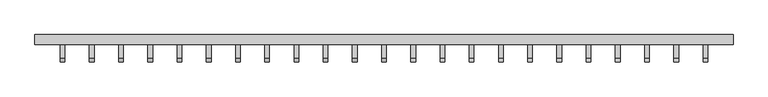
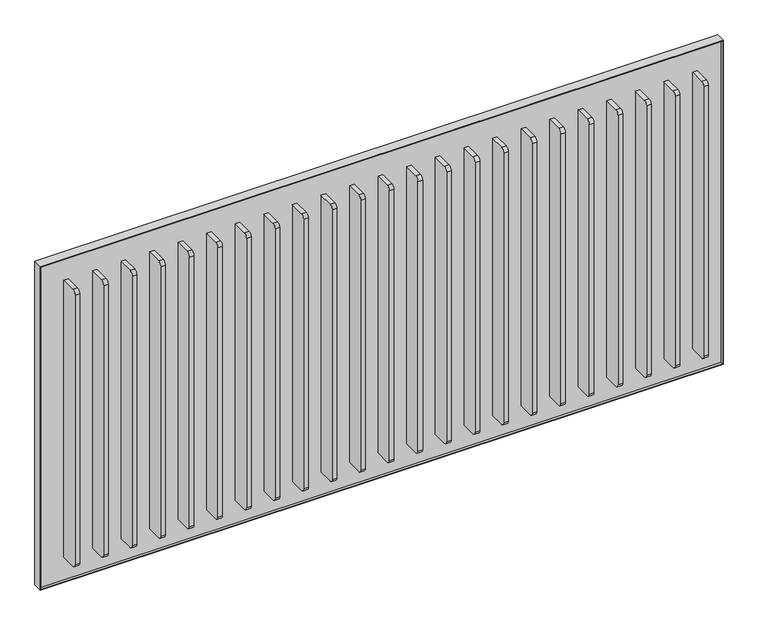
"""IFC4 building model written with IfcOpenShell, lengths in millimetres: proxy geometry, Frame_Cascade 4.3dm."""

from ifc_helpers import new_model, si_unit, point, frame, frame_2d, origin, place, context, project, spatial, polyline, circle_curve, trimmed, segment, composite_curve, outline, extrude, source, transform, mapped, element, save


def generic_models_1e1d5cd4(model_context):
    return source(origin(), model_context, "Body", "SweptSolid", [
        extrude(outline(composite_curve([segment(trimmed(circle_curve(frame_2d((72.7568681, 617.8576084)), 10.0), [point((72.7568681, 607.8576084))], [point((62.7568681, 617.8576084))], False, "CARTESIAN"), True, "CONTINUOUS"), segment(polyline([(62.7568681, 617.8576084), (62.7568681, 1370.8576084)]), True, "CONTINUOUS"), segment(trimmed(circle_curve(frame_2d((72.7568681, 1370.8576084)), 10.0), [point((62.7568681, 1370.8576084))], [point((72.7568681, 1380.8576084))], False, "CARTESIAN"), True, "CONTINUOUS"), segment(polyline([(72.7568681, 1380.8576084), (114.2568681, 1380.8576084), (114.2568681, 607.8576084), (72.7568681, 607.8576084)]), True, "CONTINUOUS")], self_intersect=False)), frame((6603.5913293, 0.0, 0.0), z_axis=(1.0, 0.0, 0.0), x_axis=(0.0, 1.0, 0.0)), (0.0, 0.0, 1.0), 12.0),
        extrude(outline(composite_curve([segment(trimmed(circle_curve(frame_2d((72.7568681, 617.8576084)), 10.0), [point((72.7568681, 607.8576084))], [point((62.7568681, 617.8576084))], False, "CARTESIAN"), True, "CONTINUOUS"), segment(polyline([(62.7568681, 617.8576084), (62.7568681, 1370.8576084)]), True, "CONTINUOUS"), segment(trimmed(circle_curve(frame_2d((72.7568681, 1370.8576084)), 10.0), [point((62.7568681, 1370.8576084))], [point((72.7568681, 1380.8576084))], False, "CARTESIAN"), True, "CONTINUOUS"), segment(polyline([(72.7568681, 1380.8576084), (114.2568681, 1380.8576084), (114.2568681, 607.8576084), (72.7568681, 607.8576084)]), True, "CONTINUOUS")], self_intersect=False)), frame((6528.0913293, 0.0, 0.0), z_axis=(1.0, 0.0, 0.0), x_axis=(0.0, 1.0, 0.0)), (0.0, 0.0, 1.0), 12.0),
        extrude(outline(composite_curve([segment(trimmed(circle_curve(frame_2d((72.7568681, 617.8576084)), 10.0), [point((72.7568681, 607.8576084))], [point((62.7568681, 617.8576084))], False, "CARTESIAN"), True, "CONTINUOUS"), segment(polyline([(62.7568681, 617.8576084), (62.7568681, 1370.8576084)]), True, "CONTINUOUS"), segment(trimmed(circle_curve(frame_2d((72.7568681, 1370.8576084)), 10.0), [point((62.7568681, 1370.8576084))], [point((72.7568681, 1380.8576084))], False, "CARTESIAN"), True, "CONTINUOUS"), segment(polyline([(72.7568681, 1380.8576084), (114.2568681, 1380.8576084), (114.2568681, 607.8576084), (72.7568681, 607.8576084)]), True, "CONTINUOUS")], self_intersect=False)), frame((6075.0913293, 0.0, 0.0), z_axis=(1.0, 0.0, 0.0), x_axis=(0.0, 1.0, 0.0)), (0.0, 0.0, 1.0), 12.0),
        extrude(outline(composite_curve([segment(trimmed(circle_curve(frame_2d((72.7568681, 617.8576084)), 10.0), [point((72.7568681, 607.8576084))], [point((62.7568681, 617.8576084))], False, "CARTESIAN"), True, "CONTINUOUS"), segment(polyline([(62.7568681, 617.8576084), (62.7568681, 1370.8576084)]), True, "CONTINUOUS"), segment(trimmed(circle_curve(frame_2d((72.7568681, 1370.8576084)), 10.0), [point((62.7568681, 1370.8576084))], [point((72.7568681, 1380.8576084))], False, "CARTESIAN"), True, "CONTINUOUS"), segment(polyline([(72.7568681, 1380.8576084), (114.2568681, 1380.8576084), (114.2568681, 607.8576084), (72.7568681, 607.8576084)]), True, "CONTINUOUS")], self_intersect=False)), frame((5999.5913293, 0.0, 0.0), z_axis=(1.0, 0.0, 0.0), x_axis=(0.0, 1.0, 0.0)), (0.0, 0.0, 1.0), 12.0),
        extrude(outline(composite_curve([segment(trimmed(circle_curve(frame_2d((72.7568681, 617.8576084)), 10.0), [point((72.7568681, 607.8576084))], [point((62.7568681, 617.8576084))], False, "CARTESIAN"), True, "CONTINUOUS"), segment(polyline([(62.7568681, 617.8576084), (62.7568681, 1370.8576084)]), True, "CONTINUOUS"), segment(trimmed(circle_curve(frame_2d((72.7568681, 1370.8576084)), 10.0), [point((62.7568681, 1370.8576084))], [point((72.7568681, 1380.8576084))], False, "CARTESIAN"), True, "CONTINUOUS"), segment(polyline([(72.7568681, 1380.8576084), (114.2568681, 1380.8576084), (114.2568681, 607.8576084), (72.7568681, 607.8576084)]), True, "CONTINUOUS")], self_intersect=False)), frame((6150.5913293, 0.0, 0.0), z_axis=(1.0, 0.0, 0.0), x_axis=(0.0, 1.0, 0.0)), (0.0, 0.0, 1.0), 12.0),
        extrude(outline(composite_curve([segment(trimmed(circle_curve(frame_2d((72.7568681, 617.8576084)), 10.0), [point((72.7568681, 607.8576084))], [point((62.7568681, 617.8576084))], False, "CARTESIAN"), True, "CONTINUOUS"), segment(polyline([(62.7568681, 617.8576084), (62.7568681, 1370.8576084)]), True, "CONTINUOUS"), segment(trimmed(circle_curve(frame_2d((72.7568681, 1370.8576084)), 10.0), [point((62.7568681, 1370.8576084))], [point((72.7568681, 1380.8576084))], False, "CARTESIAN"), True, "CONTINUOUS"), segment(polyline([(72.7568681, 1380.8576084), (114.2568681, 1380.8576084), (114.2568681, 607.8576084), (72.7568681, 607.8576084)]), True, "CONTINUOUS")], self_intersect=False)), frame((6226.0913293, 0.0, 0.0), z_axis=(1.0, 0.0, 0.0), x_axis=(0.0, 1.0, 0.0)), (0.0, 0.0, 1.0), 12.0),
        extrude(outline(composite_curve([segment(trimmed(circle_curve(frame_2d((72.7568681, 617.8576084)), 10.0), [point((72.7568681, 607.8576084))], [point((62.7568681, 617.8576084))], False, "CARTESIAN"), True, "CONTINUOUS"), segment(polyline([(62.7568681, 617.8576084), (62.7568681, 1370.8576084)]), True, "CONTINUOUS"), segment(trimmed(circle_curve(frame_2d((72.7568681, 1370.8576084)), 10.0), [point((62.7568681, 1370.8576084))], [point((72.7568681, 1380.8576084))], False, "CARTESIAN"), True, "CONTINUOUS"), segment(polyline([(72.7568681, 1380.8576084), (114.2568681, 1380.8576084), (114.2568681, 607.8576084), (72.7568681, 607.8576084)]), True, "CONTINUOUS")], self_intersect=False)), frame((6301.5913293, 0.0, 0.0), z_axis=(1.0, 0.0, 0.0), x_axis=(0.0, 1.0, 0.0)), (0.0, 0.0, 1.0), 12.0),
        extrude(outline(composite_curve([segment(trimmed(circle_curve(frame_2d((72.7568681, 617.8576084)), 10.0), [point((72.7568681, 607.8576084))], [point((62.7568681, 617.8576084))], False, "CARTESIAN"), True, "CONTINUOUS"), segment(polyline([(62.7568681, 617.8576084), (62.7568681, 1370.8576084)]), True, "CONTINUOUS"), segment(trimmed(circle_curve(frame_2d((72.7568681, 1370.8576084)), 10.0), [point((62.7568681, 1370.8576084))], [point((72.7568681, 1380.8576084))], False, "CARTESIAN"), True, "CONTINUOUS"), segment(polyline([(72.7568681, 1380.8576084), (114.2568681, 1380.8576084), (114.2568681, 607.8576084), (72.7568681, 607.8576084)]), True, "CONTINUOUS")], self_intersect=False)), frame((6377.0913293, 0.0, 0.0), z_axis=(1.0, 0.0, 0.0), x_axis=(0.0, 1.0, 0.0)), (0.0, 0.0, 1.0), 12.0),
        extrude(outline(composite_curve([segment(trimmed(circle_curve(frame_2d((72.7568681, 617.8576084)), 10.0), [point((72.7568681, 607.8576084))], [point((62.7568681, 617.8576084))], False, "CARTESIAN"), True, "CONTINUOUS"), segment(polyline([(62.7568681, 617.8576084), (62.7568681, 1370.8576084)]), True, "CONTINUOUS"), segment(trimmed(circle_curve(frame_2d((72.7568681, 1370.8576084)), 10.0), [point((62.7568681, 1370.8576084))], [point((72.7568681, 1380.8576084))], False, "CARTESIAN"), True, "CONTINUOUS"), segment(polyline([(72.7568681, 1380.8576084), (114.2568681, 1380.8576084), (114.2568681, 607.8576084), (72.7568681, 607.8576084)]), True, "CONTINUOUS")], self_intersect=False)), frame((6452.5913293, 0.0, 0.0), z_axis=(1.0, 0.0, 0.0), x_axis=(0.0, 1.0, 0.0)), (0.0, 0.0, 1.0), 12.0),
        extrude(outline(composite_curve([segment(polyline([(62.7568681, 617.8576084), (62.7568681, 1370.8576084)]), True, "CONTINUOUS"), segment(trimmed(circle_curve(frame_2d((72.7568681, 1370.8576084)), 10.0), [point((62.7568681, 1370.8576084))], [point((72.7568681, 1380.8576084))], False, "CARTESIAN"), True, "CONTINUOUS"), segment(polyline([(72.7568681, 1380.8576084), (114.2568681, 1380.8576084), (114.2568681, 607.8576084), (72.7568681, 607.8576084)]), True, "CONTINUOUS"), segment(trimmed(circle_curve(frame_2d((72.7568681, 617.8576084)), 10.0), [point((72.7568681, 607.8576084))], [point((62.7568681, 617.8576084))], False, "CARTESIAN"), True, "CONTINUOUS")], self_intersect=False)), frame((6905.5913293, 0.0, 0.0), z_axis=(1.0, 0.0, 0.0), x_axis=(0.0, 1.0, 0.0)), (0.0, 0.0, 1.0), 12.0),
        extrude(outline(composite_curve([segment(trimmed(circle_curve(frame_2d((72.7568681, 617.8576084)), 10.0), [point((72.7568681, 607.8576084))], [point((62.7568681, 617.8576084))], False, "CARTESIAN"), True, "CONTINUOUS"), segment(polyline([(62.7568681, 617.8576084), (62.7568681, 1370.8576084)]), True, "CONTINUOUS"), segment(trimmed(circle_curve(frame_2d((72.7568681, 1370.8576084)), 10.0), [point((62.7568681, 1370.8576084))], [point((72.7568681, 1380.8576084))], False, "CARTESIAN"), True, "CONTINUOUS"), segment(polyline([(72.7568681, 1380.8576084), (114.2568681, 1380.8576084), (114.2568681, 607.8576084), (72.7568681, 607.8576084)]), True, "CONTINUOUS")], self_intersect=False)), frame((6754.5913293, 0.0, 0.0), z_axis=(1.0, 0.0, 0.0), x_axis=(0.0, 1.0, 0.0)), (0.0, 0.0, 1.0), 12.0),
        extrude(outline(composite_curve([segment(trimmed(circle_curve(frame_2d((72.7568681, 617.8576084)), 10.0), [point((72.7568681, 607.8576084))], [point((62.7568681, 617.8576084))], False, "CARTESIAN"), True, "CONTINUOUS"), segment(polyline([(62.7568681, 617.8576084), (62.7568681, 1370.8576084)]), True, "CONTINUOUS"), segment(trimmed(circle_curve(frame_2d((72.7568681, 1370.8576084)), 10.0), [point((62.7568681, 1370.8576084))], [point((72.7568681, 1380.8576084))], False, "CARTESIAN"), True, "CONTINUOUS"), segment(polyline([(72.7568681, 1380.8576084), (114.2568681, 1380.8576084), (114.2568681, 607.8576084), (72.7568681, 607.8576084)]), True, "CONTINUOUS")], self_intersect=False)), frame((6679.0913293, 0.0, 0.0), z_axis=(1.0, 0.0, 0.0), x_axis=(0.0, 1.0, 0.0)), (0.0, 0.0, 1.0), 12.0),
        extrude(outline(composite_curve([segment(polyline([(62.7568681, 617.8576084), (62.7568681, 1370.8576084)]), True, "CONTINUOUS"), segment(trimmed(circle_curve(frame_2d((72.7568681, 1370.8576084)), 10.0), [point((62.7568681, 1370.8576084))], [point((72.7568681, 1380.8576084))], False, "CARTESIAN"), True, "CONTINUOUS"), segment(polyline([(72.7568681, 1380.8576084), (114.2568681, 1380.8576084), (114.2568681, 607.8576084), (72.7568681, 607.8576084)]), True, "CONTINUOUS"), segment(trimmed(circle_curve(frame_2d((72.7568681, 617.8576084)), 10.0), [point((72.7568681, 607.8576084))], [point((62.7568681, 617.8576084))], False, "CARTESIAN"), True, "CONTINUOUS")], self_intersect=False)), frame((7056.5913293, 0.0, 0.0), z_axis=(1.0, 0.0, 0.0), x_axis=(0.0, 1.0, 0.0)), (0.0, 0.0, 1.0), 12.0),
        extrude(outline(composite_curve([segment(trimmed(circle_curve(frame_2d((72.7568681, 617.8576084)), 10.0), [point((72.7568681, 607.8576084))], [point((62.7568681, 617.8576084))], False, "CARTESIAN"), True, "CONTINUOUS"), segment(polyline([(62.7568681, 617.8576084), (62.7568681, 1370.8576084)]), True, "CONTINUOUS"), segment(trimmed(circle_curve(frame_2d((72.7568681, 1370.8576084)), 10.0), [point((62.7568681, 1370.8576084))], [point((72.7568681, 1380.8576084))], False, "CARTESIAN"), True, "CONTINUOUS"), segment(polyline([(72.7568681, 1380.8576084), (114.2568681, 1380.8576084), (114.2568681, 607.8576084), (72.7568681, 607.8576084)]), True, "CONTINUOUS")], self_intersect=False)), frame((6830.0913293, 0.0, 0.0), z_axis=(1.0, 0.0, 0.0), x_axis=(0.0, 1.0, 0.0)), (0.0, 0.0, 1.0), 12.0),
        extrude(outline(composite_curve([segment(polyline([(62.7568681, 617.8576084), (62.7568681, 1370.8576084)]), True, "CONTINUOUS"), segment(trimmed(circle_curve(frame_2d((72.7568681, 1370.8576084)), 10.0), [point((62.7568681, 1370.8576084))], [point((72.7568681, 1380.8576084))], False, "CARTESIAN"), True, "CONTINUOUS"), segment(polyline([(72.7568681, 1380.8576084), (114.2568681, 1380.8576084), (114.2568681, 607.8576084), (72.7568681, 607.8576084)]), True, "CONTINUOUS"), segment(trimmed(circle_curve(frame_2d((72.7568681, 617.8576084)), 10.0), [point((72.7568681, 607.8576084))], [point((62.7568681, 617.8576084))], False, "CARTESIAN"), True, "CONTINUOUS")], self_intersect=False)), frame((6981.0913293, 0.0, 0.0), z_axis=(1.0, 0.0, 0.0), x_axis=(0.0, 1.0, 0.0)), (0.0, 0.0, 1.0), 12.0),
        extrude(outline(composite_curve([segment(polyline([(62.7568681, 617.8576084), (62.7568681, 1370.8576084)]), True, "CONTINUOUS"), segment(trimmed(circle_curve(frame_2d((72.7568681, 1370.8576084)), 10.0), [point((62.7568681, 1370.8576084))], [point((72.7568681, 1380.8576084))], False, "CARTESIAN"), True, "CONTINUOUS"), segment(polyline([(72.7568681, 1380.8576084), (114.2568681, 1380.8576084), (114.2568681, 607.8576084), (72.7568681, 607.8576084)]), True, "CONTINUOUS"), segment(trimmed(circle_curve(frame_2d((72.7568681, 617.8576084)), 10.0), [point((72.7568681, 607.8576084))], [point((62.7568681, 617.8576084))], False, "CARTESIAN"), True, "CONTINUOUS")], self_intersect=False)), frame((7132.0913293, 0.0, 0.0), z_axis=(1.0, 0.0, 0.0), x_axis=(0.0, 1.0, 0.0)), (0.0, 0.0, 1.0), 12.0),
        extrude(outline(composite_curve([segment(polyline([(62.7568681, 617.8576084), (62.7568681, 1370.8576084)]), True, "CONTINUOUS"), segment(trimmed(circle_curve(frame_2d((72.7568681, 1370.8576084)), 10.0), [point((62.7568681, 1370.8576084))], [point((72.7568681, 1380.8576084))], False, "CARTESIAN"), True, "CONTINUOUS"), segment(polyline([(72.7568681, 1380.8576084), (114.2568681, 1380.8576084), (114.2568681, 607.8576084), (72.7568681, 607.8576084)]), True, "CONTINUOUS"), segment(trimmed(circle_curve(frame_2d((72.7568681, 617.8576084)), 10.0), [point((72.7568681, 607.8576084))], [point((62.7568681, 617.8576084))], False, "CARTESIAN"), True, "CONTINUOUS")], self_intersect=False)), frame((7207.5913293, 0.0, 0.0), z_axis=(1.0, 0.0, 0.0), x_axis=(0.0, 1.0, 0.0)), (0.0, 0.0, 1.0), 12.0),
        extrude(outline(composite_curve([segment(polyline([(62.7568681, 617.8576084), (62.7568681, 1370.8576084)]), True, "CONTINUOUS"), segment(trimmed(circle_curve(frame_2d((72.7568681, 1370.8576084)), 10.0), [point((62.7568681, 1370.8576084))], [point((72.7568681, 1380.8576084))], False, "CARTESIAN"), True, "CONTINUOUS"), segment(polyline([(72.7568681, 1380.8576084), (114.2568681, 1380.8576084), (114.2568681, 607.8576084), (72.7568681, 607.8576084)]), True, "CONTINUOUS"), segment(trimmed(circle_curve(frame_2d((72.7568681, 617.8576084)), 10.0), [point((72.7568681, 607.8576084))], [point((62.7568681, 617.8576084))], False, "CARTESIAN"), True, "CONTINUOUS")], self_intersect=False)), frame((7358.5913293, 0.0, 0.0), z_axis=(1.0, 0.0, 0.0), x_axis=(0.0, 1.0, 0.0)), (0.0, 0.0, 1.0), 12.0),
        extrude(outline(composite_curve([segment(polyline([(62.7568681, 617.8576084), (62.7568681, 1370.8576084)]), True, "CONTINUOUS"), segment(trimmed(circle_curve(frame_2d((72.7568681, 1370.8576084)), 10.0), [point((62.7568681, 1370.8576084))], [point((72.7568681, 1380.8576084))], False, "CARTESIAN"), True, "CONTINUOUS"), segment(polyline([(72.7568681, 1380.8576084), (114.2568681, 1380.8576084), (114.2568681, 607.8576084), (72.7568681, 607.8576084)]), True, "CONTINUOUS"), segment(trimmed(circle_curve(frame_2d((72.7568681, 617.8576084)), 10.0), [point((72.7568681, 607.8576084))], [point((62.7568681, 617.8576084))], False, "CARTESIAN"), True, "CONTINUOUS")], self_intersect=False)), frame((7283.0913293, 0.0, 0.0), z_axis=(1.0, 0.0, 0.0), x_axis=(0.0, 1.0, 0.0)), (0.0, 0.0, 1.0), 12.0),
        extrude(outline(composite_curve([segment(polyline([(62.7568681, 617.8576084), (62.7568681, 1370.8576084)]), True, "CONTINUOUS"), segment(trimmed(circle_curve(frame_2d((72.7568681, 1370.8576084)), 10.0), [point((62.7568681, 1370.8576084))], [point((72.7568681, 1380.8576084))], False, "CARTESIAN"), True, "CONTINUOUS"), segment(polyline([(72.7568681, 1380.8576084), (114.2568681, 1380.8576084), (114.2568681, 607.8576084), (72.7568681, 607.8576084)]), True, "CONTINUOUS"), segment(trimmed(circle_curve(frame_2d((72.7568681, 617.8576084)), 10.0), [point((72.7568681, 607.8576084))], [point((62.7568681, 617.8576084))], False, "CARTESIAN"), True, "CONTINUOUS")], self_intersect=False)), frame((7585.0913293, 0.0, 0.0), z_axis=(1.0, 0.0, 0.0), x_axis=(0.0, 1.0, 0.0)), (0.0, 0.0, 1.0), 12.0),
        extrude(outline(composite_curve([segment(polyline([(62.7568681, 617.8576084), (62.7568681, 1370.8576084)]), True, "CONTINUOUS"), segment(trimmed(circle_curve(frame_2d((72.7568681, 1370.8576084)), 10.0), [point((62.7568681, 1370.8576084))], [point((72.7568681, 1380.8576084))], False, "CARTESIAN"), True, "CONTINUOUS"), segment(polyline([(72.7568681, 1380.8576084), (114.2568681, 1380.8576084), (114.2568681, 607.8576084), (72.7568681, 607.8576084)]), True, "CONTINUOUS"), segment(trimmed(circle_curve(frame_2d((72.7568681, 617.8576084)), 10.0), [point((72.7568681, 607.8576084))], [point((62.7568681, 617.8576084))], False, "CARTESIAN"), True, "CONTINUOUS")], self_intersect=False)), frame((7660.5913293, 0.0, 0.0), z_axis=(1.0, 0.0, 0.0), x_axis=(0.0, 1.0, 0.0)), (0.0, 0.0, 1.0), 12.0),
        extrude(outline(composite_curve([segment(polyline([(62.7568681, 617.8576084), (62.7568681, 1370.8576084)]), True, "CONTINUOUS"), segment(trimmed(circle_curve(frame_2d((72.7568681, 1370.8576084)), 10.0), [point((62.7568681, 1370.8576084))], [point((72.7568681, 1380.8576084))], False, "CARTESIAN"), True, "CONTINUOUS"), segment(polyline([(72.7568681, 1380.8576084), (114.2568681, 1380.8576084), (114.2568681, 607.8576084), (72.7568681, 607.8576084)]), True, "CONTINUOUS"), segment(trimmed(circle_curve(frame_2d((72.7568681, 617.8576084)), 10.0), [point((72.7568681, 607.8576084))], [point((62.7568681, 617.8576084))], False, "CARTESIAN"), True, "CONTINUOUS")], self_intersect=False)), frame((7434.0913293, 0.0, 0.0), z_axis=(1.0, 0.0, 0.0), x_axis=(0.0, 1.0, 0.0)), (0.0, 0.0, 1.0), 12.0),
        extrude(outline(composite_curve([segment(polyline([(62.7568681, 617.8576084), (62.7568681, 1370.8576084)]), True, "CONTINUOUS"), segment(trimmed(circle_curve(frame_2d((72.7568681, 1370.8576084)), 10.0), [point((62.7568681, 1370.8576084))], [point((72.7568681, 1380.8576084))], False, "CARTESIAN"), True, "CONTINUOUS"), segment(polyline([(72.7568681, 1380.8576084), (114.2568681, 1380.8576084), (114.2568681, 607.8576084), (72.7568681, 607.8576084)]), True, "CONTINUOUS"), segment(trimmed(circle_curve(frame_2d((72.7568681, 617.8576084)), 10.0), [point((72.7568681, 607.8576084))], [point((62.7568681, 617.8576084))], False, "CARTESIAN"), True, "CONTINUOUS")], self_intersect=False)), frame((7509.5913293, 0.0, 0.0), z_axis=(1.0, 0.0, 0.0), x_axis=(0.0, 1.0, 0.0)), (0.0, 0.0, 1.0), 12.0),
        extrude(outline(polyline([(7736.0913293, 114.2568681), (5936.0913293, 114.2568681), (5936.0913293, 126.2568681), (7736.0913293, 126.2568681), (7736.0913293, 114.2568681)])), frame((0.0, 0.0, 544.3576084), z_axis=(0.0, 0.0, 1.0), x_axis=(1.0, 0.0, 0.0)), (0.0, 0.0, 1.0), 900.0),
        extrude(outline(polyline([(542.3576084, 7738.0913293), (1446.3576084, 7738.0913293), (1446.3576084, 5934.0913293), (542.3576084, 5934.0913293), (542.3576084, 7738.0913293)]), holes=[polyline([(544.3576084, 7736.0913293), (544.3576084, 5936.0913293), (1444.3576084, 5936.0913293), (1444.3576084, 7736.0913293), (544.3576084, 7736.0913293)])]), frame((0.0, 107.5568681, 0.0), z_axis=(0.0, 1.0, 0.0), x_axis=(0.0, 0.0, 1.0)), (0.0, 0.0, 1.0), 25.4),
    ])


if __name__ == "__main__":
    model = new_model("IFC4")
    model_context = context("Model", 3, world=origin())
    ifc_project = project(units=[si_unit("LENGTHUNIT", "METRE", prefix="MILLI")], contexts=[model_context])
    site = spatial("IfcSite", under=ifc_project)
    building = spatial("IfcBuilding", under=site)
    placement = place(None, origin())
    generic_models_shape = generic_models_1e1d5cd4(model_context)
    element("IfcBuildingElementProxy", 1, Name="Frame_Cascade 4.3dm", ObjectType="Frame_Cascade 4.3dm", at=placement, inside=building, context=model_context, shape_type="MappedRepresentation", body=[
        mapped(generic_models_shape, transform((0.0, 0.0, 0.0), x_axis=(1.0, 0.0, 0.0), y_axis=(0.0, 1.0, 0.0), z_axis=(0.0, 0.0, 1.0))),
    ])
    save(model, "model.ifc")
